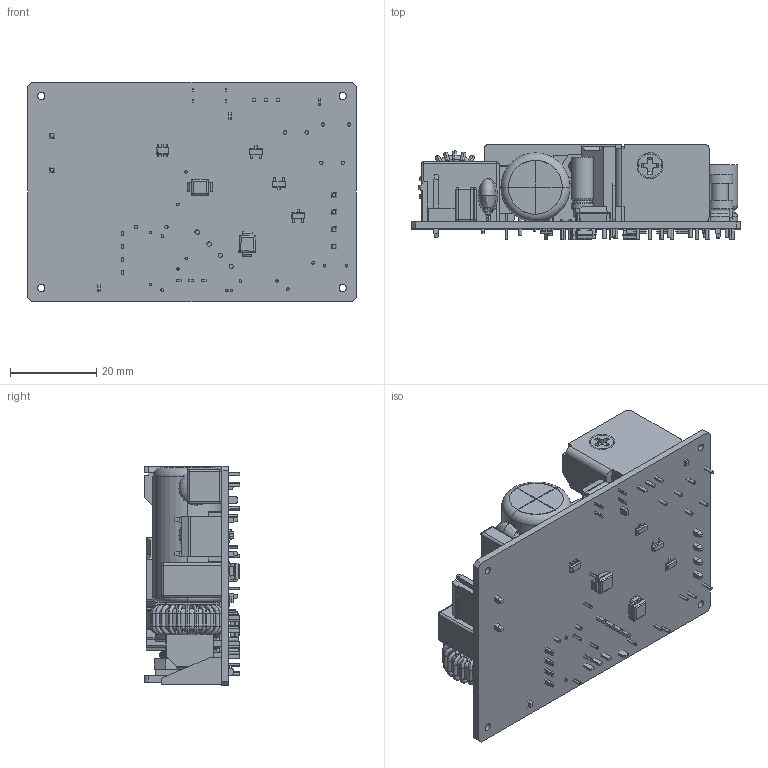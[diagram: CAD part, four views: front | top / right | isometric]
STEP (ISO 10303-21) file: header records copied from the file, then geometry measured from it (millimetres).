
FILE_DESCRIPTION(/* description */ (''),/* implementation_level */ '2;1');
FILE_NAME(/* name */ 'MDS-040APS.stp',/* time_stamp */ '2014-02-25T11:50:36+08:00',/* author */ (''),/* organization */ (''),/* preprocessor_version */ 'ST-DEVELOPER v14',/* originating_system */ 'SIEMENS PLM Software NX 8.0',/* authorisation */ '');
FILE_SCHEMA (('CONFIG_CONTROL_DESIGN'));
Products named in the file (34): PWB_AF0; C1-OK_AF0; L101-M_AF0; HSK2; D101_AF0; C103; C102; IC32_AF0; BD1-M_AF0; HS1; L_PIN_LEFT; L_PIN_FLAT; Q1-1_AF0; R9; CX1-M; CX1; Z1NTC1; C105-1_AF0; C32-1; CY1; FL1; T1; B2P3-VH_LF_SN; B4P-VH_LF_SN; NUT; 3105452400-L7; J1; J2; J3; E8X4_5PBHB; IC31; D1; Q132; MDS-040APS_stp
Assembly tree (43 placements, depth 2):
  MDS-040APS_stp
    Q132  x3
    D1  x2
    IC31
    E8X4_5PBHB  x2
    J3
    J2
    J1
    3105452400-L7  x2
    NUT  x2
    B4P-VH_LF_SN
    B2P3-VH_LF_SN
    T1
    FL1
    CY1
    C32-1
    C105-1_AF0
    Z1NTC1  x2
    CX1
    CX1-M  x2
    R9
    Q1-1_AF0
    L_PIN_FLAT  x2
    L_PIN_LEFT  x2
    HS1
    BD1-M_AF0
    IC32_AF0
    C102
    C103
    D101_AF0
    HSK2
    L101-M_AF0
    C1-OK_AF0
    PWB_AF0
Bounding box: 76.2 x 22.1 x 50.8 mm (x, y, z)
Volume: 32874.6 mm3; surface area: 26560.5 mm2
Topology: 46 solids, 46 shells, 1976 faces, 4702 edges, 2819 vertices
Faces by surface type: plane 870, cylinder 674, torus 259, bspline 83, sphere 70, cone 16, revolution 4
Entity records: 59675 total; most frequent: CARTESIAN_POINT 16821, DIRECTION 8502, ORIENTED_EDGE 7902, EDGE_CURVE 3951, AXIS2_PLACEMENT_3D 3148, VERTEX_POINT 2369, LINE 2204, VECTOR 2204
